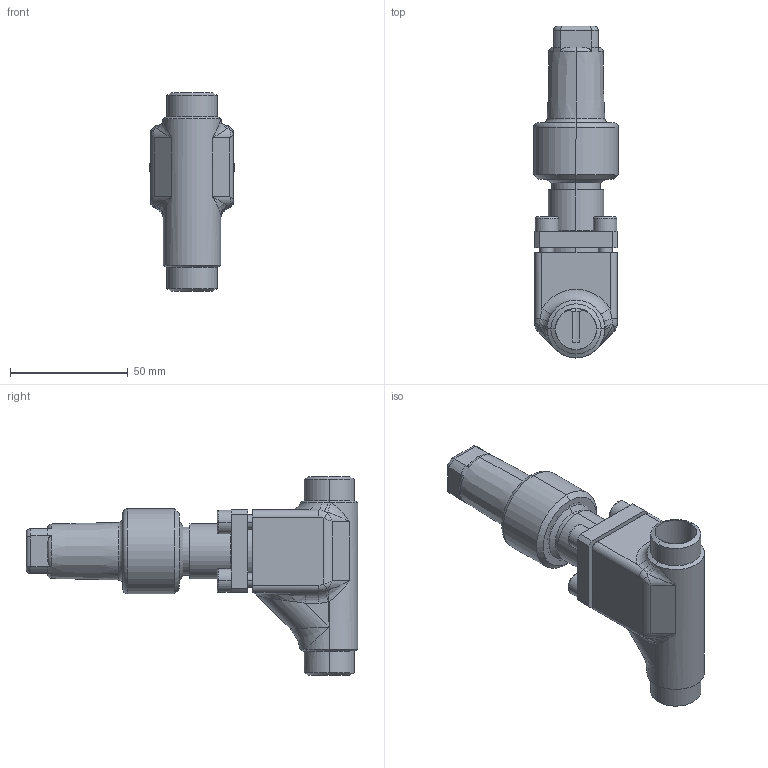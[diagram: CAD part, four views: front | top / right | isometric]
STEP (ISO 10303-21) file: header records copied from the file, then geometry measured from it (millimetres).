
FILE_DESCRIPTION (( 'STEP AP214' ), '1' );
FILE_NAME ('AVR96300-DN015_R1_PS40.STEP', '2006-05-02T07:46:15', ( 'Herr Grams' ), ( 'AWP GmbH' ), 'SwSTEP 2.0', 'SolidWorks 2002296', '' );
FILE_SCHEMA (( 'AUTOMOTIVE_DESIGN' ));
Length unit declared in the file: millimetre
Products named in the file (6): AVR96300-DN015_R1_PS40; Gehäuse96300E10-DN15_PS40_R1_Standard; AVR96300E10_Deck+Schr-DN6-15_Standard; Deckel96300E10-DN6-15_PS40_Standard; Zylinderschraube-DIN912_M 6x 18; Kappe96300E10_DN6-20_Standard
Assembly tree (8 placements, depth 3):
  AVR96300-DN015_R1_PS40
    Kappe96300E10_DN6-20_Standard
    AVR96300E10_Deck+Schr-DN6-15_Standard
      Deckel96300E10-DN6-15_PS40_Standard
      Zylinderschraube-DIN912_M 6x 18  x4
    Gehäuse96300E10-DN15_PS40_R1_Standard
Bounding box: 36 x 140.7 x 84 mm (x, y, z)
Volume: 103787.4 mm3; surface area: 36493.3 mm2
Topology: 7 solids, 7 shells, 263 faces, 607 edges, 369 vertices
Faces by surface type: cylinder 93, plane 88, cone 29, bspline 29, torus 24
Entity records: 18215 total; most frequent: CARTESIAN_POINT 12913, ORIENTED_EDGE 970, DIRECTION 960, EDGE_CURVE 485, AXIS2_PLACEMENT_3D 399, VERTEX_POINT 297, EDGE_LOOP 234, ADVANCED_FACE 209
